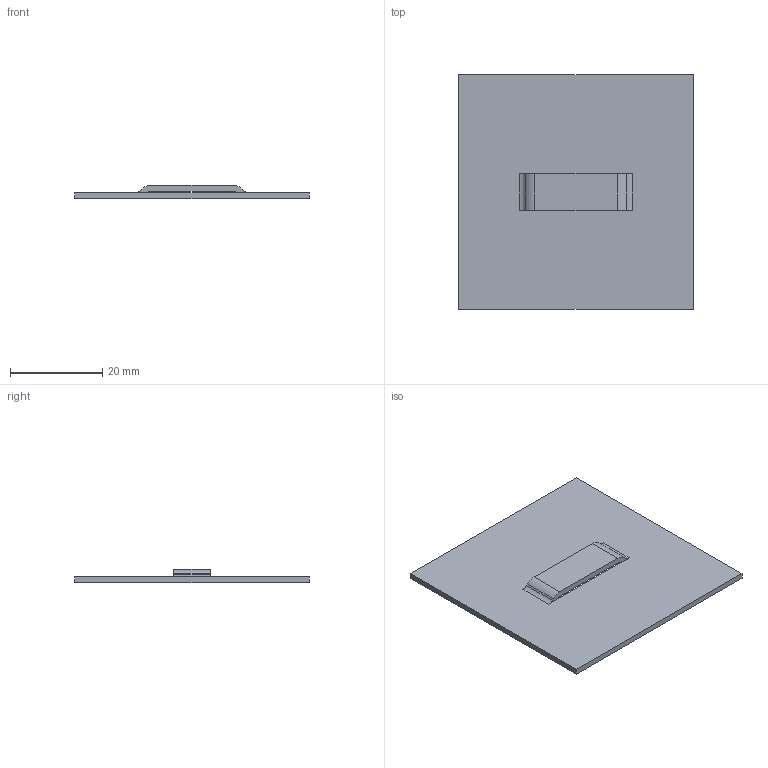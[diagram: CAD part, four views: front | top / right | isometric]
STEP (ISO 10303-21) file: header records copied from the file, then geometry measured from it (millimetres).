
FILE_DESCRIPTION((''),'1');
FILE_NAME('C:/Users/robertnolte/Desktop/WT#655749-10.stp','2012-03-28T00:28:09',(''),(''),'Spatial Interop R21 SP3','Kubotek KeyCreator 2011 V10.5.0 (24766)',' ');
FILE_SCHEMA(('CONFIG_CONTROL_DESIGN'));
Length unit declared in the file: inch
Products named in the file (1): 1
Bounding box: 50.8 x 50.8 x 2.84 mm (x, y, z)
Volume: 3286.7 mm3; surface area: 5544.1 mm2
Topology: 1 solids, 1 shells, 24 faces, 68 edges, 44 vertices
Faces by surface type: plane 16, cylinder 8
Entity records: 832 total; most frequent: DIRECTION 138, CARTESIAN_POINT 137, ORIENTED_EDGE 136, EDGE_CURVE 68, LINE 48, VECTOR 48, AXIS2_PLACEMENT_3D 45, VERTEX_POINT 44
